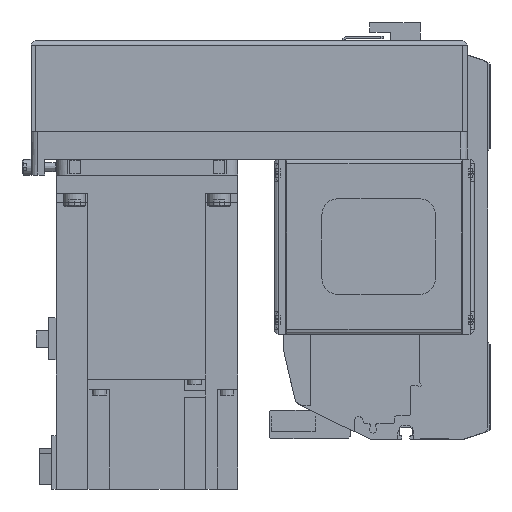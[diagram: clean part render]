
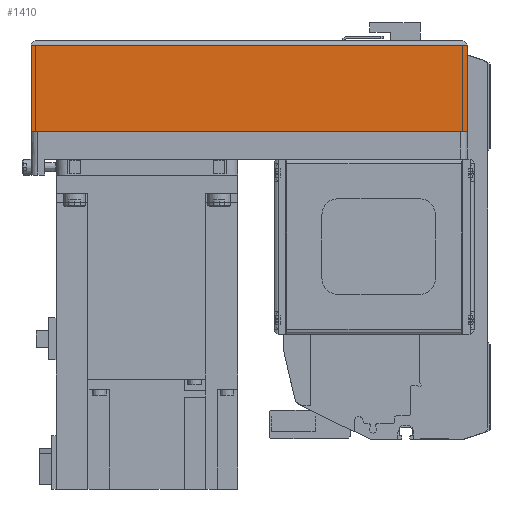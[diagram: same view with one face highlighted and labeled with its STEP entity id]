
A CAD part, left-side view. The second image highlights one B-rep face of the part: STEP entity #1410.
In plain terms, the highlighted planar face has unit normal (-1, 0, 0) as drawn and (0, 1, 0) by its records, which use the part's own axes.
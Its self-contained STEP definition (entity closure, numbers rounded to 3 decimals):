
#1410 = ADVANCED_FACE( '', ( #3854 ), #3855, .T. );
#3854 = FACE_OUTER_BOUND( '', #7782, .T. );
#3855 = PLANE( '', #7783 );
#7782 = EDGE_LOOP( '', ( #11941, #11942, #11943, #11944 ) );
#7783 = AXIS2_PLACEMENT_3D( '', #11945, #11946, #11947 );
#11941 = ORIENTED_EDGE( '', *, *, #22046, .F. );
#11942 = ORIENTED_EDGE( '', *, *, #22047, .F. );
#11943 = ORIENTED_EDGE( '', *, *, #22048, .T. );
#11944 = ORIENTED_EDGE( '', *, *, #22049, .T. );
#11945 = CARTESIAN_POINT( '', ( -192., 40., -50. ) );
#11946 = DIRECTION( '', ( 0., 1., 0. ) );
#11947 = DIRECTION( '', ( 0., 0., 1. ) );
#22046 = EDGE_CURVE( '', #26201, #26202, #26203, .T. );
#22047 = EDGE_CURVE( '', #26204, #26201, #26205, .T. );
#22048 = EDGE_CURVE( '', #26204, #26206, #26207, .T. );
#22049 = EDGE_CURVE( '', #26206, #26202, #26208, .T. );
#26201 = VERTEX_POINT( '', #32269 );
#26202 = VERTEX_POINT( '', #32270 );
#26203 = LINE( '', #32271, #32272 );
#26204 = VERTEX_POINT( '', #32273 );
#26205 = LINE( '', #32274, #32275 );
#26206 = VERTEX_POINT( '', #32276 );
#26207 = LINE( '', #32277, #32278 );
#26208 = LINE( '', #32279, #32280 );
#32269 = CARTESIAN_POINT( '', ( 0., 40., -50. ) );
#32270 = CARTESIAN_POINT( '', ( 0., 40., -12.1 ) );
#32271 = CARTESIAN_POINT( '', ( 0., 40., -50. ) );
#32272 = VECTOR( '', #41429, 1000. );
#32273 = CARTESIAN_POINT( '', ( -192., 40., -50. ) );
#32274 = CARTESIAN_POINT( '', ( -192., 40., -50. ) );
#32275 = VECTOR( '', #41430, 1000. );
#32276 = CARTESIAN_POINT( '', ( -192., 40., -12.1 ) );
#32277 = CARTESIAN_POINT( '', ( -192., 40., -50. ) );
#32278 = VECTOR( '', #41431, 1000. );
#32279 = CARTESIAN_POINT( '', ( -192., 40., -12.1 ) );
#32280 = VECTOR( '', #41432, 1000. );
#41429 = DIRECTION( '', ( 0., 0., 1. ) );
#41430 = DIRECTION( '', ( 1., 0., 0. ) );
#41431 = DIRECTION( '', ( 0., 0., 1. ) );
#41432 = DIRECTION( '', ( 1., 0., 0. ) );
